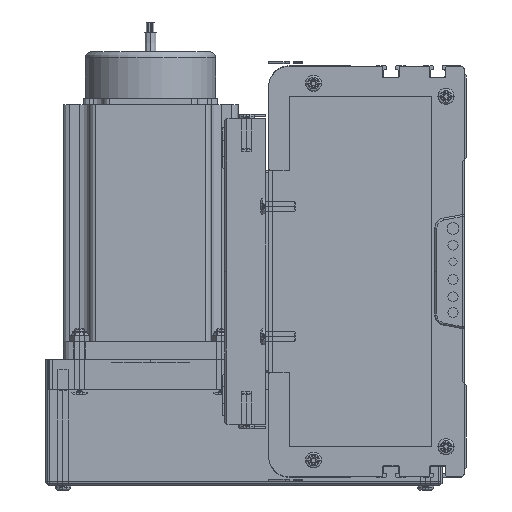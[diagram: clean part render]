
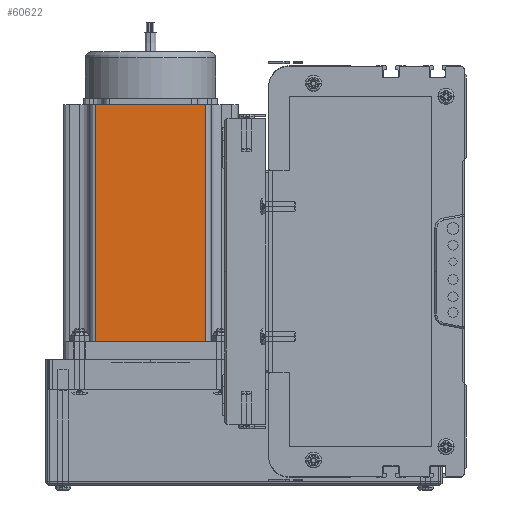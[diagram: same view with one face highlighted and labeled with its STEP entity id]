
A CAD part, left-side view. The second image highlights one B-rep face of the part: STEP entity #60622.
In plain terms, the highlighted planar face has unit normal (-1, 0, 0) as drawn and (0, -1, 0) by its records, which use the part's own axes.
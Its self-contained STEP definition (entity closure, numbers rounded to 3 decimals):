
#58650 = EDGE_CURVE ( 'NONE', #60617, #60619, #134943, .T. ) ;
#60510 = EDGE_CURVE ( 'NONE', #60603, #60617, #137460, .T. ) ;
#60516 = ORIENTED_EDGE ( 'NONE', *, *, #60510, .T. ) ;
#60579 = EDGE_CURVE ( 'NONE', #60603, #60605, #137510, .T. ) ;
#60603 = VERTEX_POINT ( 'NONE', #137646 ) ;
#60605 = VERTEX_POINT ( 'NONE', #137645 ) ;
#60612 = EDGE_LOOP ( 'NONE', ( #60627, #60625, #60624, #60516 ) ) ;
#60617 = VERTEX_POINT ( 'NONE', #137637 ) ;
#60619 = VERTEX_POINT ( 'NONE', #137639 ) ;
#60622 = ADVANCED_FACE ( 'NONE', ( #137672 ), #137633, .F. ) ;
#60624 = ORIENTED_EDGE ( 'NONE', *, *, #60579, .F. ) ;
#60625 = ORIENTED_EDGE ( 'NONE', *, *, #60629, .T. ) ;
#60627 = ORIENTED_EDGE ( 'NONE', *, *, #58650, .T. ) ;
#60629 = EDGE_CURVE ( 'NONE', #60619, #60605, #137670, .T. ) ;
#134942 = CARTESIAN_POINT ( 'NONE',  ( 0., 0., 0. ) ) ;
#134943 = LINE ( 'NONE', #134942, #134975 ) ;
#134974 = DIRECTION ( 'NONE',  ( 1., 0., 0. ) ) ;
#134975 = VECTOR ( 'NONE', #134974, 1000. ) ;
#137459 = CARTESIAN_POINT ( 'NONE',  ( 16.16, 0., 116.5 ) ) ;
#137460 = LINE ( 'NONE', #137459, #137493 ) ;
#137492 = DIRECTION ( 'NONE',  ( 0., 0., -1. ) ) ;
#137493 = VECTOR ( 'NONE', #137492, 1000. ) ;
#137509 = CARTESIAN_POINT ( 'NONE',  ( 0., 0., 116.5 ) ) ;
#137510 = LINE ( 'NONE', #137509, #137548 ) ;
#137547 = DIRECTION ( 'NONE',  ( 1., 0., 0. ) ) ;
#137548 = VECTOR ( 'NONE', #137547, 1000. ) ;
#137632 = AXIS2_PLACEMENT_3D ( 'NONE', #137668, #137667, #137666 ) ;
#137633 = PLANE ( 'NONE',  #137632 ) ;
#137637 = CARTESIAN_POINT ( 'NONE',  ( 16.16, 0., 0. ) ) ;
#137639 = CARTESIAN_POINT ( 'NONE',  ( 69.74, 0., 0. ) ) ;
#137644 = CARTESIAN_POINT ( 'NONE',  ( 69.74, 0., 116.5 ) ) ;
#137645 = CARTESIAN_POINT ( 'NONE',  ( 69.74, 0., 116.5 ) ) ;
#137646 = CARTESIAN_POINT ( 'NONE',  ( 16.16, 0., 116.5 ) ) ;
#137662 = DIRECTION ( 'NONE',  ( 0., 0., 1. ) ) ;
#137663 = VECTOR ( 'NONE', #137662, 1000. ) ;
#137666 = DIRECTION ( 'NONE',  ( 0., 0., 1. ) ) ;
#137667 = DIRECTION ( 'NONE',  ( 0., 1., 0. ) ) ;
#137668 = CARTESIAN_POINT ( 'NONE',  ( 0., 0., 116.5 ) ) ;
#137670 = LINE ( 'NONE', #137644, #137663 ) ;
#137672 = FACE_OUTER_BOUND ( 'NONE', #60612, .T. ) ;
